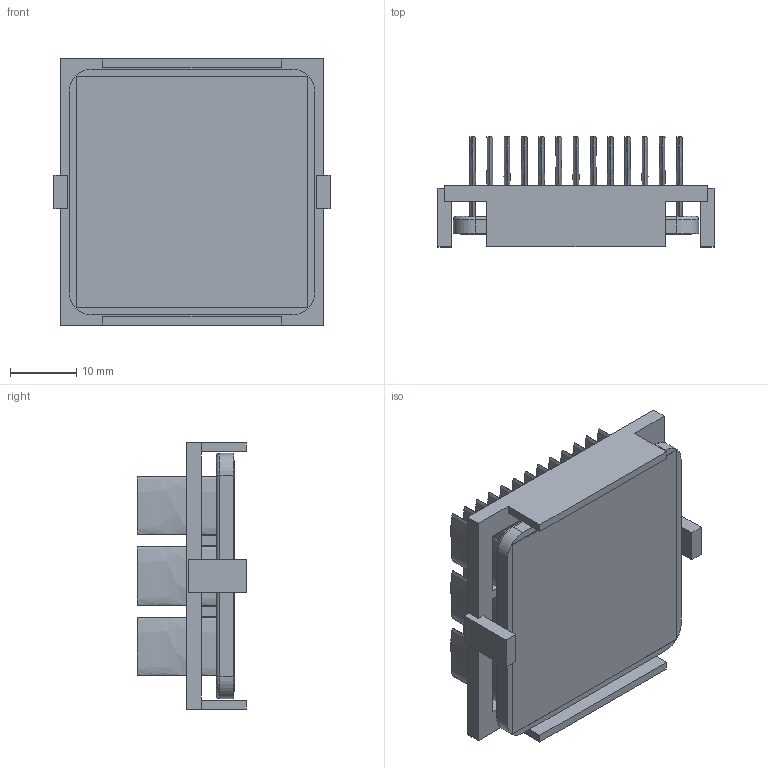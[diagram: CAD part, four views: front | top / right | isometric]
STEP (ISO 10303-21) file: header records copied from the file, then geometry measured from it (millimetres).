
FILE_DESCRIPTION (( 'STEP AP214' ), '1' );
FILE_NAME ('INM37.5001-15W-2.6BU.STEP', '2023-02-21T00:58:30', ( '' ), ( '' ), 'SwSTEP 2.0', 'SolidWorks 2020', '' );
FILE_SCHEMA (( 'AUTOMOTIVE_DESIGN' ));
Length unit declared in the file: inch
Products named in the file (1): INM37.5001-15W-2.6BU
Bounding box: 41.7 x 16.6 x 40.2 mm (x, y, z)
Volume: 8695.6 mm3; surface area: 16830.1 mm2
Topology: 3 solids, 3 shells, 195 faces, 442 edges, 292 vertices
Faces by surface type: plane 105, bspline 78, cylinder 8, torus 4
Entity records: 8187 total; most frequent: CARTESIAN_POINT 1944, ORIENTED_EDGE 884, DIRECTION 542, EDGE_CURVE 442, VERTEX_POINT 292, VECTOR 266, LINE 266, EDGE_LOOP 236
